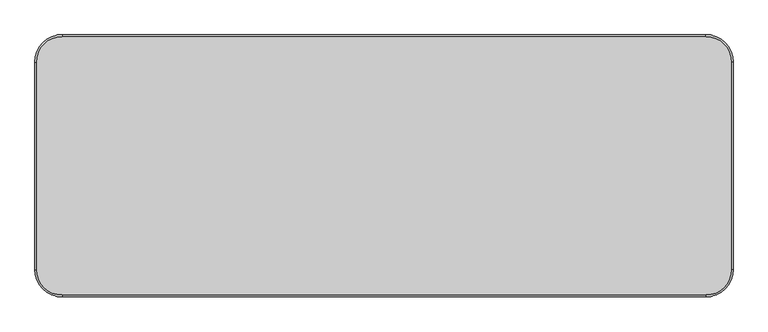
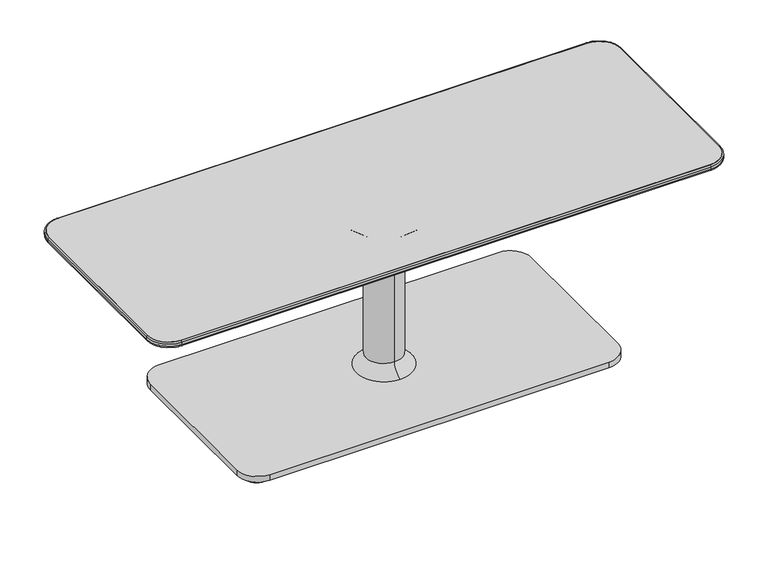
"""IFC4 building model written with IfcOpenShell, lengths in millimetres: furniture geometry, Coalesse_AM_Table_Occasional_Lagunitas : 18D x 48W."""

from ifc_helpers import new_model, si_unit, point, frame, frame_2d, origin, origin_with_axes, place, context, project, spatial, polyline, circle_curve, ellipse_curve, trimmed, segment, composite_curve, outline, extrude, source, transform, mapped, element, save
from ifc_brep_helpers import plane_surface, cylinder_surface, revolved_surface, spline_surface, advanced_brep


def furniture_e01ff0be(model_context):
    return source(origin(), model_context, "Body", "SolidModel", [
        advanced_brep(
        [(606.8570059, 181.1038988, 397.469), (562.4070059, 225.5538988, 397.469), (-561.7969941, 225.5538988, 397.469), (-606.2469941, 181.1038988, 397.469), (-606.2469941, -181.1038988, 397.469), (-561.7969941, -225.5538988, 397.469), (562.4070059, -225.5538988, 397.469), (606.8570059, -181.1038988, 397.469), (539.0389826, 157.7365202, 379.6637444), (539.0389826, -157.7365202, 379.6637444), (-538.4289709, -157.7365202, 379.6637444), (-538.4289709, 157.7365202, 379.6637444)],
        [
            (0, 1, circle_curve(frame((562.4070059, 181.1038988, 397.469), z_axis=(0.0, 0.0, 1.0), x_axis=(1.0, 0.0, 0.0)), 44.45)),
            (1, 2),
            (2, 3, circle_curve(frame((-561.7969941, 181.1038988, 397.469), z_axis=(0.0, 0.0, 1.0), x_axis=(1.0, 0.0, 0.0)), 44.45)),
            (3, 4),
            (4, 5, circle_curve(frame((-561.7969941, -181.1038988, 397.469), z_axis=(0.0, 0.0, 1.0), x_axis=(1.0, 0.0, 0.0)), 44.45)),
            (5, 6),
            (6, 7, circle_curve(frame((562.4070059, -181.1038988, 397.469), z_axis=(0.0, 0.0, 1.0), x_axis=(1.0, 0.0, 0.0)), 44.45)),
            (7, 0),
            (8, 9),
            (9, 10),
            (10, 11),
            (11, 8),
            (0, 8),
            (8, 1),
            (11, 2),
            (11, 3),
            (10, 4),
            (10, 5),
            (9, 6),
            (9, 7),
        ],
        [
            plane_surface(frame((0.3050059, 0.0, 397.469), z_axis=(0.0, 0.0, 1.0), x_axis=(-1.0, 0.0, 0.0))),
            plane_surface(frame((0.3050059, 0.0, 379.6637444), z_axis=(0.0, 0.0, -1.0), x_axis=(-1.0, 0.0, 0.0))),
            spline_surface(2, 1, [[(539.0389826, 157.7365202, 379.6637444), (606.8570059, 181.1038988, 397.469)], [(539.0389826, 157.7365202, 379.6637444), (606.8570059, 225.55389880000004, 397.469)], [(539.0389826, 157.7365202, 379.6637444), (562.4070059, 225.5538988, 397.469)]], [3, 3], [2, 2], [0.0, 1.0], [0.0, 1.0], weights=[[1.0, 1.0], [0.7071067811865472, 0.7071067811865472], [1.0, 1.0]]),
            plane_surface(frame((0.3050059, 157.7365202, 379.6637444), z_axis=(0.0, 0.2539407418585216, -0.9672197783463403), x_axis=(-1.0, 0.0, 0.0))),
            spline_surface(2, 1, [[(-538.4289709, 157.7365202, 379.6637444), (-561.7969941, 225.5538988, 397.469)], [(-538.4289709, 157.7365202, 379.6637444), (-606.2469941, 225.55389879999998, 397.469)], [(-538.4289709, 157.7365202, 379.6637444), (-606.2469941, 181.1038988, 397.469)]], [3, 3], [2, 2], [0.0, 1.0], [0.0, 1.0], weights=[[1.0, 1.0], [0.7071067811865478, 0.7071067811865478], [1.0, 1.0]]),
            plane_surface(frame((-538.4289709, 0.0, 379.6637444), z_axis=(-0.25393848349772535, 0.0, -0.9672203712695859), x_axis=(0.0, -1.0, 0.0))),
            spline_surface(2, 1, [[(-538.4289709, -157.7365202, 379.6637444), (-606.2469941, -181.1038988, 397.469)], [(-538.4289709, -157.7365202, 379.6637444), (-606.2469941, -225.55389880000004, 397.469)], [(-538.4289709, -157.7365202, 379.6637444), (-561.7969941, -225.5538988, 397.469)]], [3, 3], [2, 2], [0.0, 1.0], [0.0, 1.0], weights=[[1.0, 1.0], [0.7071067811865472, 0.7071067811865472], [1.0, 1.0]]),
            plane_surface(frame((0.3050059, -157.7365202, 379.6637444), z_axis=(0.0, -0.25394074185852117, -0.9672197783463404), x_axis=(1.0, 0.0, 0.0))),
            spline_surface(2, 1, [[(539.0389826, -157.7365202, 379.6637444), (562.4070059, -225.5538988, 397.469)], [(539.0389826, -157.7365202, 379.6637444), (606.8570059, -225.55389879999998, 397.469)], [(539.0389826, -157.7365202, 379.6637444), (606.8570059, -181.1038988, 397.469)]], [3, 3], [2, 2], [0.0, 1.0], [0.0, 1.0], weights=[[1.0, 1.0], [0.7071067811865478, 0.7071067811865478], [1.0, 1.0]]),
            plane_surface(frame((539.0389826, 0.0, 379.6637444), z_axis=(0.25393848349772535, 0.0, -0.9672203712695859), x_axis=(0.0, 1.0, 0.0))),
        ],
        [
            (0, [[1, 2, 3, 4, 5, 6, 7, 8]]),
            (1, [[9, 10, 11, 12]]),
            (2, [[-1, 13, 14]]),
            (3, [[-12, 15, -2, -14]]),
            (4, [[-3, -15, 16]]),
            (5, [[-11, 17, -4, -16]]),
            (6, [[-5, -17, 18]]),
            (7, [[-10, 19, -6, -18]]),
            (8, [[-7, -19, 20]]),
            (9, [[-9, -13, -8, -20]]),
        ],
    ),
        extrude(outline(composite_curve([segment(trimmed(circle_curve(frame_2d((562.4070059, 181.1038988)), 44.45), [point((562.4070059, 225.5538988))], [point((606.8570059, 181.1038988))], False, "CARTESIAN"), True, "CONTINUOUS"), segment(polyline([(606.8570059, 181.1038988), (606.8570059, -181.1038988)]), True, "CONTINUOUS"), segment(trimmed(circle_curve(frame_2d((562.4070059, -181.1038988)), 44.45), [point((606.8570059, -181.1038988))], [point((562.4070059, -225.5538988))], False, "CARTESIAN"), True, "CONTINUOUS"), segment(polyline([(562.4070059, -225.5538988), (-561.7969941, -225.5538988)]), True, "CONTINUOUS"), segment(trimmed(circle_curve(frame_2d((-561.7969941, -181.1038988)), 44.45), [point((-561.7969941, -225.5538988))], [point((-606.2469941, -181.1038988))], False, "CARTESIAN"), True, "CONTINUOUS"), segment(polyline([(-606.2469941, -181.1038988), (-606.2469941, 181.1038988)]), True, "CONTINUOUS"), segment(trimmed(circle_curve(frame_2d((-561.7969941, 181.1038988)), 44.45), [point((-606.2469941, 181.1038988))], [point((-561.7969941, 225.5538988))], False, "CARTESIAN"), True, "CONTINUOUS"), segment(polyline([(-561.7969941, 225.5538988), (562.4070059, 225.5538988)]), True, "CONTINUOUS")], self_intersect=False)), frame((0.0, 0.0, 397.469), z_axis=(0.0, 0.0, 1.0), x_axis=(1.0, 0.0, 0.0)), (0.0, 0.0, 1.0), 12.0215427),
        extrude(outline(composite_curve([segment(trimmed(circle_curve(frame_2d((-364.6703146, 163.3047663)), 25.4), [point((-390.0703146, 163.3047663))], [point((-339.2703146, 163.3047663))], False, "CARTESIAN"), True, "CONTINUOUS"), segment(trimmed(circle_curve(frame_2d((-364.6703146, 163.3047663)), 25.4), [point((-339.2703146, 163.3047663))], [point((-390.0703146, 163.3047663))], False, "CARTESIAN"), True, "CONTINUOUS")], self_intersect=False)), origin_with_axes(), (0.0, 0.0, 1.0), 10.6571495),
        extrude(outline(composite_curve([segment(trimmed(circle_curve(frame_2d((365.2803263, 163.3047663)), 25.4), [point((339.8803263, 163.3047663))], [point((390.6803263, 163.3047663))], False, "CARTESIAN"), True, "CONTINUOUS"), segment(trimmed(circle_curve(frame_2d((365.2803263, 163.3047663)), 25.4), [point((390.6803263, 163.3047663))], [point((339.8803263, 163.3047663))], False, "CARTESIAN"), True, "CONTINUOUS")], self_intersect=False)), origin_with_axes(), (0.0, 0.0, 1.0), 10.6571495),
        extrude(outline(composite_curve([segment(trimmed(circle_curve(frame_2d((365.2803263, -163.3047663)), 25.4), [point((339.8803263, -163.3047663))], [point((390.6803263, -163.3047663))], False, "CARTESIAN"), True, "CONTINUOUS"), segment(trimmed(circle_curve(frame_2d((365.2803263, -163.3047663)), 25.4), [point((390.6803263, -163.3047663))], [point((339.8803263, -163.3047663))], False, "CARTESIAN"), True, "CONTINUOUS")], self_intersect=False)), origin_with_axes(), (0.0, 0.0, 1.0), 10.6571495),
        extrude(outline(composite_curve([segment(trimmed(circle_curve(frame_2d((-364.6703146, -163.3047663)), 25.4), [point((-390.0703146, -163.3047663))], [point((-339.2703146, -163.3047663))], False, "CARTESIAN"), True, "CONTINUOUS"), segment(trimmed(circle_curve(frame_2d((-364.6703146, -163.3047663)), 25.4), [point((-339.2703146, -163.3047663))], [point((-390.0703146, -163.3047663))], False, "CARTESIAN"), True, "CONTINUOUS")], self_intersect=False)), origin_with_axes(), (0.0, 0.0, 1.0), 10.6571495),
        extrude(outline(composite_curve([segment(trimmed(circle_curve(frame_2d((360.7310059, 158.75)), 44.45), [point((360.7310059, 203.2))], [point((405.1810059, 158.75))], False, "CARTESIAN"), True, "CONTINUOUS"), segment(polyline([(405.1810059, 158.75), (405.1810059, -158.75)]), True, "CONTINUOUS"), segment(trimmed(circle_curve(frame_2d((360.7310059, -158.75)), 44.45), [point((405.1810059, -158.75))], [point((360.7310059, -203.2))], False, "CARTESIAN"), True, "CONTINUOUS"), segment(polyline([(360.7310059, -203.2), (-360.1209941, -203.2)]), True, "CONTINUOUS"), segment(trimmed(circle_curve(frame_2d((-360.1209941, -158.75)), 44.45), [point((-360.1209941, -203.2))], [point((-404.5709941, -158.75))], False, "CARTESIAN"), True, "CONTINUOUS"), segment(polyline([(-404.5709941, -158.75), (-404.5709941, 158.75)]), True, "CONTINUOUS"), segment(trimmed(circle_curve(frame_2d((-360.1209941, 158.75)), 44.45), [point((-404.5709941, 158.75))], [point((-360.1209941, 203.2))], False, "CARTESIAN"), True, "CONTINUOUS"), segment(polyline([(-360.1209941, 203.2), (360.7310059, 203.2)]), True, "CONTINUOUS")], self_intersect=False)), frame((0.0, 0.0, 10.6571495), z_axis=(0.0, 0.0, 1.0), x_axis=(1.0, 0.0, 0.0)), (0.0, 0.0, 1.0), 12.7000004),
        advanced_brep(
        [(-609.2930954, 181.1038988, 401.2622643), (-561.7969941, 228.6, 401.2622643), (-561.7969941, 225.5538988, 397.469), (-606.2469941, 181.1038988, 397.469), (-609.2930954, 181.1038988, 406.4504815), (-561.7969941, 228.6, 406.4504815), (-606.2469941, 181.1038988, 409.4965828), (-561.7969941, 225.5538988, 409.4965828), (-606.2469941, -181.1038988, 397.469), (-609.2930954, -181.1038988, 401.2622643), (-609.2930954, -181.1038988, 406.4504815), (-606.2469941, -181.1038988, 409.4965828), (-561.7969941, -228.6, 401.2622643), (-561.7969941, -225.5538988, 397.469), (-561.7969941, -228.6, 406.4504815), (-561.7969941, -225.5538988, 409.4965828), (562.4070059, -225.5538988, 397.469), (562.4070059, -228.6, 401.2622643), (562.4070059, -228.6, 406.4504815), (562.4070059, -225.5538988, 409.4965828), (609.9031071, -181.1038988, 401.2622643), (606.8570059, -181.1038988, 397.469), (609.9031071, -181.1038988, 406.4504815), (606.8570059, -181.1038988, 409.4965828), (606.8570059, 181.1038988, 397.469), (609.9031071, 181.1038988, 401.2622643), (609.9031071, 181.1038988, 406.4504815), (606.8570059, 181.1038988, 409.4965828), (562.4070059, 228.6, 401.2622643), (562.4070059, 225.5538988, 397.469), (562.4070059, 228.6, 406.4504815), (562.4070059, 225.5538988, 409.4965828)],
        [
            (0, 1, circle_curve(frame((-561.7969941, 181.1038988, 401.2622643), z_axis=(0.0, 0.0, -1.0), x_axis=(0.0, 1.0, 0.0)), 47.4961012)),
            (1, 2, circle_curve(frame((-561.7969941, 224.7151017, 401.2622643), z_axis=(-1.0, 0.0, 0.0), x_axis=(0.0, -1.0, 0.0)), 3.8848983)),
            (2, 3, circle_curve(frame((-561.7969941, 181.1038988, 397.469), z_axis=(0.0, 0.0, 1.0), x_axis=(0.0, 1.0, 0.0)), 44.45)),
            (3, 0, circle_curve(frame((-605.4081971, 181.1038988, 401.2622643), z_axis=(0.0, 1.0, 0.0), x_axis=(1.0, 0.0, 0.0)), 3.8848983)),
            (4, 5, circle_curve(frame((-561.7969941, 181.1038988, 406.4504815), z_axis=(0.0, 0.0, -1.0), x_axis=(0.0, 1.0, 0.0)), 47.4961012)),
            (5, 1),
            (0, 4),
            (6, 7, circle_curve(frame((-561.7969941, 181.1038988, 409.4965828), z_axis=(0.0, 0.0, -1.0), x_axis=(0.0, 1.0, 0.0)), 44.45)),
            (7, 5, circle_curve(frame((-561.7969941, 225.5538988, 406.4504815), z_axis=(-1.0, 0.0, 0.0), x_axis=(0.0, -1.0, 0.0)), 3.0461012)),
            (4, 6, circle_curve(frame((-606.2469941, 181.1038988, 406.4504815), z_axis=(0.0, 1.0, 0.0), x_axis=(1.0, 0.0, 0.0)), 3.0461012)),
            (2, 7),
            (6, 3),
            (3, 8),
            (8, 9, circle_curve(frame((-605.4081971, -181.1038988, 401.2622643), z_axis=(0.0, 1.0, 0.0), x_axis=(1.0, 0.0, 0.0)), 3.8848983)),
            (9, 0),
            (9, 10),
            (10, 4),
            (10, 11, circle_curve(frame((-606.2469941, -181.1038988, 406.4504815), z_axis=(0.0, 1.0, 0.0), x_axis=(1.0, 0.0, 0.0)), 3.0461012)),
            (11, 6),
            (11, 8),
            (12, 9, circle_curve(frame((-561.7969941, -181.1038988, 401.2622643), z_axis=(0.0, 0.0, -1.0), x_axis=(-1.0, 0.0, 0.0)), 47.4961012)),
            (8, 13, circle_curve(frame((-561.7969941, -181.1038988, 397.469), z_axis=(0.0, 0.0, 1.0), x_axis=(-1.0, 0.0, 0.0)), 44.45)),
            (13, 12, circle_curve(frame((-561.7969941, -224.7151017, 401.2622643), z_axis=(-1.0, 0.0, 0.0), x_axis=(0.0, 1.0, 0.0)), 3.8848983)),
            (14, 10, circle_curve(frame((-561.7969941, -181.1038988, 406.4504815), z_axis=(0.0, 0.0, -1.0), x_axis=(-1.0, 0.0, 0.0)), 47.4961012)),
            (12, 14),
            (15, 11, circle_curve(frame((-561.7969941, -181.1038988, 409.4965828), z_axis=(0.0, 0.0, -1.0), x_axis=(-1.0, 0.0, 0.0)), 44.45)),
            (14, 15, circle_curve(frame((-561.7969941, -225.5538988, 406.4504815), z_axis=(-1.0, 0.0, 0.0), x_axis=(0.0, 1.0, 0.0)), 3.0461012)),
            (15, 13),
            (13, 16),
            (16, 17, circle_curve(frame((562.4070059, -224.7151017, 401.2622643), z_axis=(-1.0, 0.0, 0.0), x_axis=(0.0, 1.0, 0.0)), 3.8848983)),
            (17, 12),
            (17, 18),
            (18, 14),
            (18, 19, circle_curve(frame((562.4070059, -225.5538988, 406.4504815), z_axis=(-1.0, 0.0, 0.0), x_axis=(0.0, 1.0, 0.0)), 3.0461012)),
            (19, 15),
            (19, 16),
            (20, 17, circle_curve(frame((562.4070059, -181.1038988, 401.2622643), z_axis=(0.0, 0.0, -1.0), x_axis=(0.0, -1.0, 0.0)), 47.4961012)),
            (16, 21, circle_curve(frame((562.4070059, -181.1038988, 397.469), z_axis=(0.0, 0.0, 1.0), x_axis=(0.0, -1.0, 0.0)), 44.45)),
            (21, 20, circle_curve(frame((606.0182088, -181.1038988, 401.2622643), z_axis=(0.0, -1.0, 0.0), x_axis=(-1.0, 0.0, 0.0)), 3.8848983)),
            (22, 18, circle_curve(frame((562.4070059, -181.1038988, 406.4504815), z_axis=(0.0, 0.0, -1.0), x_axis=(0.0, -1.0, 0.0)), 47.4961012)),
            (20, 22),
            (23, 19, circle_curve(frame((562.4070059, -181.1038988, 409.4965828), z_axis=(0.0, 0.0, -1.0), x_axis=(0.0, -1.0, 0.0)), 44.45)),
            (22, 23, circle_curve(frame((606.8570059, -181.1038988, 406.4504815), z_axis=(0.0, -1.0, 0.0), x_axis=(-1.0, 0.0, 0.0)), 3.0461012)),
            (23, 21),
            (21, 24),
            (24, 25, circle_curve(frame((606.0182088, 181.1038988, 401.2622643), z_axis=(0.0, -1.0, 0.0), x_axis=(-1.0, 0.0, 0.0)), 3.8848983)),
            (25, 20),
            (25, 26),
            (26, 22),
            (26, 27, circle_curve(frame((606.8570059, 181.1038988, 406.4504815), z_axis=(0.0, -1.0, 0.0), x_axis=(-1.0, 0.0, 0.0)), 3.0461012)),
            (27, 23),
            (27, 24),
            (28, 25, circle_curve(frame((562.4070059, 181.1038988, 401.2622643), z_axis=(0.0, 0.0, -1.0), x_axis=(1.0, 0.0, 0.0)), 47.4961012)),
            (24, 29, circle_curve(frame((562.4070059, 181.1038988, 397.469), z_axis=(0.0, 0.0, 1.0), x_axis=(1.0, 0.0, 0.0)), 44.45)),
            (29, 28, circle_curve(frame((562.4070059, 224.7151017, 401.2622643), z_axis=(1.0, 0.0, 0.0), x_axis=(0.0, -1.0, 0.0)), 3.8848983)),
            (30, 26, circle_curve(frame((562.4070059, 181.1038988, 406.4504815), z_axis=(0.0, 0.0, -1.0), x_axis=(1.0, 0.0, 0.0)), 47.4961012)),
            (28, 30),
            (31, 27, circle_curve(frame((562.4070059, 181.1038988, 409.4965828), z_axis=(0.0, 0.0, -1.0), x_axis=(1.0, 0.0, 0.0)), 44.45)),
            (30, 31, circle_curve(frame((562.4070059, 225.5538988, 406.4504815), z_axis=(1.0, 0.0, 0.0), x_axis=(0.0, -1.0, 0.0)), 3.0461012)),
            (31, 29),
            (29, 2),
            (1, 28),
            (5, 30),
            (7, 31),
        ],
        [
            revolved_surface(trimmed(ellipse_curve(frame((-561.7969941, 224.7151017, 401.2622643), z_axis=(1.0, 0.0, 0.0), x_axis=(0.0, -1.0, 0.0)), 3.8848983, 3.8848983), [point((-561.7969941, 225.5538988, 397.469))], [point((-561.7969941, 228.6, 401.2622643))], True, "CARTESIAN"), (-561.7969941, 181.1038988, 0.0), (0.0, 0.0, 1.0)),
            cylinder_surface(frame((-561.7969941, 181.1038988, 0.0), z_axis=(0.0, 0.0, 1.0), x_axis=(0.0, 1.0, 0.0)), 47.4961012),
            revolved_surface(trimmed(ellipse_curve(frame((-561.7969941, 225.5538988, 406.4504815), z_axis=(1.0, 0.0, 0.0), x_axis=(0.0, -1.0, 0.0)), 3.0461012, 3.0461012), [point((-561.7969941, 228.6, 406.4504815))], [point((-561.7969941, 225.5538988, 409.4965828))], True, "CARTESIAN"), (-561.7969941, 181.1038988, 0.0), (0.0, 0.0, 1.0)),
            revolved_surface(polyline([(-561.7969941, 225.5538988, 409.4965828), (-561.7969941, 225.5538988, 397.469)]), (-561.7969941, 181.1038988, 0.0), (0.0, 0.0, 1.0)),
            cylinder_surface(frame((-605.4081971, 181.1038988, 401.2622643), z_axis=(0.0, 1.0, 0.0), x_axis=(1.0, 0.0, 0.0)), 3.8848983),
            plane_surface(frame((-609.2930954, 181.1038988, 401.2622643), z_axis=(-1.0, 0.0, 0.0), x_axis=(0.0, -1.0, 0.0))),
            cylinder_surface(frame((-606.2469941, 181.1038988, 406.4504815), z_axis=(0.0, 1.0, 0.0), x_axis=(1.0, 0.0, 0.0)), 3.0461012),
            plane_surface(frame((-606.2469941, 181.1038988, 409.4965828), z_axis=(1.0, 0.0, 0.0), x_axis=(0.0, -1.0, 0.0))),
            revolved_surface(trimmed(ellipse_curve(frame((-605.4081971, -181.1038988, 401.2622643), z_axis=(0.0, 1.0, 0.0), x_axis=(1.0, 0.0, 0.0)), 3.8848983, 3.8848983), [point((-606.2469941, -181.1038988, 397.469))], [point((-609.2930954, -181.1038988, 401.2622643))], True, "CARTESIAN"), (-561.7969941, -181.1038988, 0.0), (0.0, 0.0, 1.0)),
            cylinder_surface(frame((-561.7969941, -181.1038988, 0.0), z_axis=(0.0, 0.0, 1.0), x_axis=(-1.0, 0.0, 0.0)), 47.4961012),
            revolved_surface(trimmed(ellipse_curve(frame((-606.2469941, -181.1038988, 406.4504815), z_axis=(0.0, 1.0, 0.0), x_axis=(1.0, 0.0, 0.0)), 3.0461012, 3.0461012), [point((-609.2930954, -181.1038988, 406.4504815))], [point((-606.2469941, -181.1038988, 409.4965828))], True, "CARTESIAN"), (-561.7969941, -181.1038988, 0.0), (0.0, 0.0, 1.0)),
            revolved_surface(polyline([(-606.2469941, -181.1038988, 409.4965828), (-606.2469941, -181.1038988, 397.469)]), (-561.7969941, -181.1038988, 0.0), (0.0, 0.0, 1.0)),
            cylinder_surface(frame((-561.7969941, -224.7151017, 401.2622643), z_axis=(-1.0, 0.0, 0.0), x_axis=(0.0, 1.0, 0.0)), 3.8848983),
            plane_surface(frame((-561.7969941, -228.6, 401.2622643), z_axis=(0.0, -1.0, 0.0), x_axis=(1.0, 0.0, 0.0))),
            cylinder_surface(frame((-561.7969941, -225.5538988, 406.4504815), z_axis=(-1.0, 0.0, 0.0), x_axis=(0.0, 1.0, 0.0)), 3.0461012),
            plane_surface(frame((-561.7969941, -225.5538988, 409.4965828), z_axis=(0.0, 1.0, 0.0), x_axis=(1.0, 0.0, 0.0))),
            revolved_surface(trimmed(ellipse_curve(frame((562.4070059, -224.7151017, 401.2622643), z_axis=(-1.0, 0.0, 0.0), x_axis=(0.0, 1.0, 0.0)), 3.8848983, 3.8848983), [point((562.4070059, -225.5538988, 397.469))], [point((562.4070059, -228.6, 401.2622643))], True, "CARTESIAN"), (562.4070059, -181.1038988, 0.0), (0.0, 0.0, 1.0)),
            cylinder_surface(frame((562.4070059, -181.1038988, 0.0), z_axis=(0.0, 0.0, 1.0), x_axis=(0.0, -1.0, 0.0)), 47.4961012),
            revolved_surface(trimmed(ellipse_curve(frame((562.4070059, -225.5538988, 406.4504815), z_axis=(-1.0, 0.0, 0.0), x_axis=(0.0, 1.0, 0.0)), 3.0461012, 3.0461012), [point((562.4070059, -228.6, 406.4504815))], [point((562.4070059, -225.5538988, 409.4965828))], True, "CARTESIAN"), (562.4070059, -181.1038988, 0.0), (0.0, 0.0, 1.0)),
            revolved_surface(polyline([(562.4070059, -225.5538988, 409.4965828), (562.4070059, -225.5538988, 397.469)]), (562.4070059, -181.1038988, 0.0), (0.0, 0.0, 1.0)),
            cylinder_surface(frame((606.0182088, -181.1038988, 401.2622643), z_axis=(0.0, -1.0, 0.0), x_axis=(-1.0, 0.0, 0.0)), 3.8848983),
            plane_surface(frame((609.9031071, -181.1038988, 401.2622643), z_axis=(1.0, 0.0, 0.0), x_axis=(0.0, 1.0, 0.0))),
            cylinder_surface(frame((606.8570059, -181.1038988, 406.4504815), z_axis=(0.0, -1.0, 0.0), x_axis=(-1.0, 0.0, 0.0)), 3.0461012),
            plane_surface(frame((606.8570059, -181.1038988, 409.4965828), z_axis=(-1.0, 0.0, 0.0), x_axis=(0.0, 1.0, 0.0))),
            revolved_surface(trimmed(ellipse_curve(frame((606.0182088, 181.1038988, 401.2622643), z_axis=(0.0, -1.0, 0.0), x_axis=(-1.0, 0.0, 0.0)), 3.8848983, 3.8848983), [point((606.8570059, 181.1038988, 397.469))], [point((609.9031071, 181.1038988, 401.2622643))], True, "CARTESIAN"), (562.4070059, 181.1038988, 0.0), (0.0, 0.0, 1.0)),
            cylinder_surface(frame((562.4070059, 181.1038988, 0.0), z_axis=(0.0, 0.0, 1.0), x_axis=(1.0, 0.0, 0.0)), 47.4961012),
            revolved_surface(trimmed(ellipse_curve(frame((606.8570059, 181.1038988, 406.4504815), z_axis=(0.0, -1.0, 0.0), x_axis=(-1.0, 0.0, 0.0)), 3.0461012, 3.0461012), [point((609.9031071, 181.1038988, 406.4504815))], [point((606.8570059, 181.1038988, 409.4965828))], True, "CARTESIAN"), (562.4070059, 181.1038988, 0.0), (0.0, 0.0, 1.0)),
            revolved_surface(polyline([(606.8570059, 181.1038988, 409.4965828), (606.8570059, 181.1038988, 397.469)]), (562.4070059, 181.1038988, 0.0), (0.0, 0.0, 1.0)),
            cylinder_surface(frame((562.4070059, 224.7151017, 401.2622643), z_axis=(1.0, 0.0, 0.0), x_axis=(0.0, -1.0, 0.0)), 3.8848983),
            plane_surface(frame((562.4070059, 228.6, 401.2622643), z_axis=(0.0, 1.0, 0.0), x_axis=(-1.0, 0.0, 0.0))),
            cylinder_surface(frame((562.4070059, 225.5538988, 406.4504815), z_axis=(1.0, 0.0, 0.0), x_axis=(0.0, -1.0, 0.0)), 3.0461012),
            plane_surface(frame((562.4070059, 225.5538988, 409.4965828), z_axis=(0.0, -1.0, 0.0), x_axis=(-1.0, 0.0, 0.0))),
        ],
        [
            (0, [[1, 2, 3, 4]]),
            (1, [[5, 6, -1, 7]]),
            (2, [[8, 9, -5, 10]]),
            (3, [[-3, 11, -8, 12]]),
            (4, [[-4, 13, 14, 15]]),
            (5, [[-7, -15, 16, 17]]),
            (6, [[-10, -17, 18, 19]]),
            (7, [[-12, -19, 20, -13]]),
            (8, [[21, -14, 22, 23]]),
            (9, [[24, -16, -21, 25]]),
            (10, [[26, -18, -24, 27]]),
            (11, [[-22, -20, -26, 28]]),
            (12, [[-23, 29, 30, 31]]),
            (13, [[-25, -31, 32, 33]]),
            (14, [[-27, -33, 34, 35]]),
            (15, [[-28, -35, 36, -29]]),
            (16, [[37, -30, 38, 39]]),
            (17, [[40, -32, -37, 41]]),
            (18, [[42, -34, -40, 43]]),
            (19, [[-38, -36, -42, 44]]),
            (20, [[-39, 45, 46, 47]]),
            (21, [[-41, -47, 48, 49]]),
            (22, [[-43, -49, 50, 51]]),
            (23, [[-44, -51, 52, -45]]),
            (24, [[53, -46, 54, 55]]),
            (25, [[56, -48, -53, 57]]),
            (26, [[58, -50, -56, 59]]),
            (27, [[-54, -52, -58, 60]]),
            (28, [[-55, 61, -2, 62]]),
            (29, [[-57, -62, -6, 63]]),
            (30, [[-59, -63, -9, 64]]),
            (31, [[-60, -64, -11, -61]]),
        ],
    ),
        advanced_brep(
        [(0.3050059, -37.9287895, 316.8396771), (0.3050059, 37.9287895, 316.8396771), (0.3050059, 37.9287895, 50.0429711), (0.3050059, -37.9287895, 50.0429711), (0.3050059, -124.8292749, 376.2012377), (0.3050059, 124.8292749, 376.2012377), (0.3050059, 108.7456186, 376.2012377), (0.3050059, -108.7456186, 376.2012377), (0.3050059, -126.8430328, 379.6637444), (0.3050059, 126.8430328, 379.6637444), (0.3050059, 0.0, 379.6637444), (0.3050059, -60.2304855, 23.3571499), (0.3050059, 60.2304855, 23.3571499), (0.3050059, 0.0, 23.3571499), (0.3050059, -43.2397657, 328.4935507), (0.3050059, 43.2397657, 328.4935507), (0.3050059, -90.1028171, 369.2309798), (0.3050059, 90.1028171, 369.2309798)],
        [
            (0, 1, circle_curve(frame((0.3050059, 0.0, 316.8396771), z_axis=(0.0, 0.0, -1.0), x_axis=(0.0, 1.0, 0.0)), 37.9287895)),
            (1, 2),
            (2, 3, circle_curve(frame((0.3050059, 0.0, 50.0429711), z_axis=(0.0, 0.0, 1.0), x_axis=(0.0, 1.0, 0.0)), 37.9287895)),
            (3, 0),
            (1, 0, circle_curve(frame((0.3050059, 0.0, 316.8396771), z_axis=(0.0, 0.0, -1.0), x_axis=(0.0, 1.0, 0.0)), 37.9287895)),
            (3, 2, circle_curve(frame((0.3050059, 0.0, 50.0429711), z_axis=(0.0, 0.0, 1.0), x_axis=(0.0, 1.0, 0.0)), 37.9287895)),
            (4, 5, circle_curve(frame((0.3050059, 0.0, 376.2012377), z_axis=(0.0, 0.0, -1.0), x_axis=(0.0, 1.0, 0.0)), 124.8292749)),
            (5, 6),
            (6, 7, circle_curve(frame((0.3050059, 0.0, 376.2012377), z_axis=(0.0, 0.0, 1.0), x_axis=(0.0, 1.0, 0.0)), 108.7456186)),
            (7, 4),
            (5, 4, circle_curve(frame((0.3050059, 0.0, 376.2012377), z_axis=(0.0, 0.0, -1.0), x_axis=(0.0, 1.0, 0.0)), 124.8292749)),
            (7, 6, circle_curve(frame((0.3050059, 0.0, 376.2012377), z_axis=(0.0, 0.0, 1.0), x_axis=(0.0, 1.0, 0.0)), 108.7456186)),
            (8, 9, circle_curve(frame((0.3050059, 0.0, 379.6637444), z_axis=(0.0, 0.0, -1.0), x_axis=(0.0, 1.0, 0.0)), 126.8430328)),
            (9, 5, circle_curve(frame((0.3050059, 124.8292749, 378.5180813), z_axis=(-1.0, 0.0, 0.0), x_axis=(0.0, 1.0, 0.0)), 2.3168437)),
            (4, 8, circle_curve(frame((0.3050059, -124.8292749, 378.5180813), z_axis=(-1.0, 0.0, 0.0), x_axis=(0.0, -1.0, 0.0)), 2.3168437)),
            (9, 8, circle_curve(frame((0.3050059, 0.0, 379.6637444), z_axis=(0.0, 0.0, -1.0), x_axis=(0.0, 1.0, 0.0)), 126.8430328)),
            (10, 9),
            (8, 10),
            (11, 12, circle_curve(frame((0.3050059, 0.0, 23.3571499), z_axis=(0.0, 0.0, -1.0), x_axis=(0.0, 1.0, 0.0)), 60.2304855)),
            (12, 13),
            (13, 11),
            (12, 11, circle_curve(frame((0.3050059, 0.0, 23.3571499), z_axis=(0.0, 0.0, -1.0), x_axis=(0.0, 1.0, 0.0)), 60.2304855)),
            (2, 12, circle_curve(frame((0.3050059, 65.045532, 50.0429711), z_axis=(1.0, 0.0, 0.0), x_axis=(0.0, 1.0, 0.0)), 27.1167425)),
            (11, 3, circle_curve(frame((0.3050059, -65.045532, 50.0429711), z_axis=(1.0, 0.0, 0.0), x_axis=(0.0, -1.0, 0.0)), 27.1167425)),
            (14, 15, circle_curve(frame((0.3050059, 0.0, 328.4935507), z_axis=(0.0, 0.0, -1.0), x_axis=(0.0, 1.0, 0.0)), 43.2397657)),
            (15, 1, circle_curve(frame((0.3050059, 53.3703235, 316.8396771), z_axis=(1.0, 0.0, 0.0), x_axis=(0.0, 1.0, 0.0)), 15.441534)),
            (0, 14, circle_curve(frame((0.3050059, -53.3703235, 316.8396771), z_axis=(1.0, 0.0, 0.0), x_axis=(0.0, -1.0, 0.0)), 15.441534)),
            (15, 14, circle_curve(frame((0.3050059, 0.0, 328.4935507), z_axis=(0.0, 0.0, -1.0), x_axis=(0.0, 1.0, 0.0)), 43.2397657)),
            (16, 17, circle_curve(frame((0.3050059, 0.0, 369.2309798), z_axis=(0.0, 0.0, -1.0), x_axis=(0.0, 1.0, 0.0)), 90.1028171)),
            (17, 15),
            (14, 16),
            (17, 16, circle_curve(frame((0.3050059, 0.0, 369.2309798), z_axis=(0.0, 0.0, -1.0), x_axis=(0.0, 1.0, 0.0)), 90.1028171)),
            (6, 17, circle_curve(frame((0.3050059, 108.7456186, 347.78489), z_axis=(1.0, 0.0, 0.0), x_axis=(0.0, 1.0, 0.0)), 28.4163477)),
            (16, 7, circle_curve(frame((0.3050059, -108.7456186, 347.78489), z_axis=(1.0, 0.0, 0.0), x_axis=(0.0, -1.0, 0.0)), 28.4163477)),
        ],
        [
            cylinder_surface(frame((0.3050059, 0.0, 738.9341599), z_axis=(0.0, 0.0, 1.0), x_axis=(0.0, 1.0, 0.0)), 37.9287895),
            plane_surface(frame((0.3050059, 0.0, 376.2012377), z_axis=(0.0, 0.0, -1.0), x_axis=(0.0, 1.0, 0.0))),
            revolved_surface(trimmed(ellipse_curve(frame((0.3050059, 124.8292749, 378.5180813), z_axis=(1.0, 0.0, 0.0), x_axis=(0.0, 1.0, 0.0)), 2.3168437, 2.3168437), [point((0.3050059, 124.8292749, 376.2012377))], [point((0.3050059, 126.8430328, 379.6637444))], True, "CARTESIAN"), (0.3050059, 0.0, 738.9341599), (0.0, 0.0, 1.0)),
            plane_surface(frame((0.3050059, 0.0, 379.6637444), z_axis=(0.0, 0.0, 1.0), x_axis=(0.0, 1.0, 0.0))),
            plane_surface(frame((0.3050059, 0.0, 23.3571499), z_axis=(0.0, 0.0, -1.0), x_axis=(0.0, 1.0, 0.0))),
            revolved_surface(trimmed(ellipse_curve(frame((0.3050059, 65.045532, 50.0429711), z_axis=(-1.0, 0.0, 0.0), x_axis=(0.0, 1.0, 0.0)), 27.1167425, 27.1167425), [point((0.3050059, 60.2304855, 23.3571499))], [point((0.3050059, 37.9287895, 50.0429711))], True, "CARTESIAN"), (0.3050059, 0.0, 738.9341599), (0.0, 0.0, 1.0)),
            revolved_surface(trimmed(ellipse_curve(frame((0.3050059, 53.3703235, 316.8396771), z_axis=(-1.0, 0.0, 0.0), x_axis=(0.0, 1.0, 0.0)), 15.441534, 15.441534), [point((0.3050059, 37.9287895, 316.8396771))], [point((0.3050059, 43.2397657, 328.4935507))], True, "CARTESIAN"), (0.3050059, 0.0, 738.9341599), (0.0, 0.0, 1.0)),
            revolved_surface(polyline([(0.3050059, 43.2397657, 328.4935507), (0.3050059, 90.1028171, 369.2309798)]), (0.3050059, 0.0, 738.9341599), (0.0, 0.0, 1.0)),
            revolved_surface(trimmed(ellipse_curve(frame((0.3050059, 108.7456186, 347.78489), z_axis=(-1.0, 0.0, 0.0), x_axis=(0.0, 1.0, 0.0)), 28.4163477, 28.4163477), [point((0.3050059, 90.1028171, 369.2309798))], [point((0.3050059, 108.7456186, 376.2012377))], True, "CARTESIAN"), (0.3050059, 0.0, 738.9341599), (0.0, 0.0, 1.0)),
        ],
        [
            (0, [[1, 2, 3, 4]]),
            (0, [[5, -4, 6, -2]]),
            (1, [[7, 8, 9, 10]]),
            (1, [[11, -10, 12, -8]]),
            (2, [[13, 14, -7, 15]]),
            (2, [[16, -15, -11, -14]]),
            (3, [[17, -13, 18]]),
            (3, [[-18, -16, -17]]),
            (4, [[19, 20, 21]]),
            (4, [[22, -21, -20]]),
            (5, [[-3, 23, -19, 24]]),
            (5, [[-6, -24, -22, -23]]),
            (6, [[25, 26, -1, 27]]),
            (6, [[28, -27, -5, -26]]),
            (7, [[29, 30, -25, 31]]),
            (7, [[32, -31, -28, -30]]),
            (8, [[-9, 33, -29, 34]]),
            (8, [[-12, -34, -32, -33]]),
        ],
    ),
    ])


if __name__ == "__main__":
    model = new_model("IFC4")
    model_context = context("Model", 3, world=origin())
    ifc_project = project(units=[si_unit("LENGTHUNIT", "METRE", prefix="MILLI")], contexts=[model_context])
    site = spatial("IfcSite", under=ifc_project)
    building = spatial("IfcBuilding", under=site)
    placement = place(None, origin())
    furniture_shape = furniture_e01ff0be(model_context)
    element("IfcFurniture", 1, ObjectType="Coalesse_AM_Table_Occasional_Lagunitas : 18D x 48W", at=placement, inside=building, context=model_context, shape_type="MappedRepresentation", body=[
        mapped(furniture_shape, transform((0.0, 0.0, 0.0), x_axis=(1.0, 0.0, 0.0), y_axis=(0.0, 1.0, 0.0), z_axis=(0.0, 0.0, 1.0))),
    ])
    save(model, "model.ifc")
